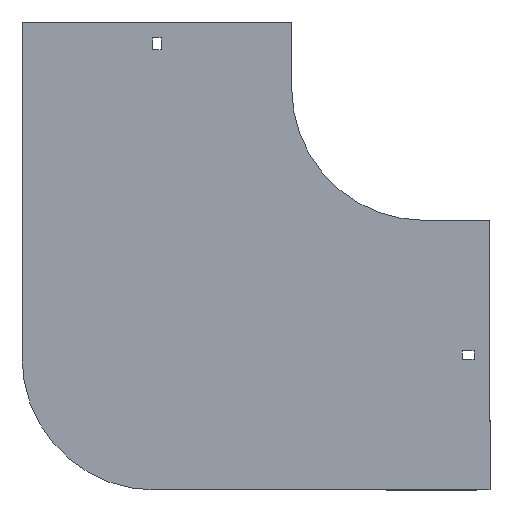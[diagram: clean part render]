
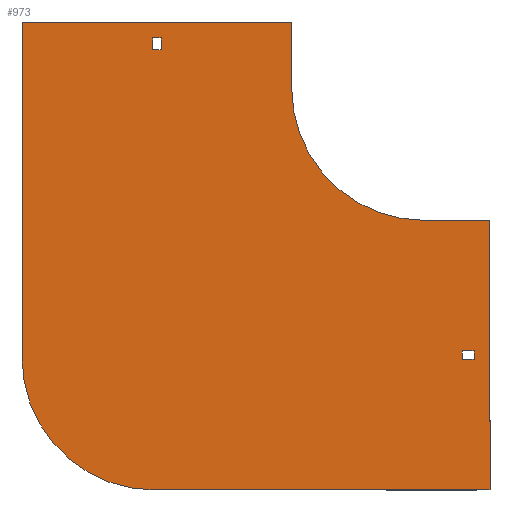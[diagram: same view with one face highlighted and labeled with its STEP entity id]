
A CAD part, front view. The second image highlights one B-rep face of the part: STEP entity #973.
In plain terms, the highlighted planar face has unit normal (0, -1, 0).
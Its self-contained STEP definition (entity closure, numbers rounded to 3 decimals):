
#22 = VERTEX_POINT ( 'NONE', #513 ) ;
#24 = DIRECTION ( 'NONE',  ( 0., -1., 0. ) ) ;
#25 = VECTOR ( 'NONE', #322, 1000. ) ;
#29 = LINE ( 'NONE', #884, #195 ) ;
#37 = CARTESIAN_POINT ( 'NONE',  ( 50., 0., -304. ) ) ;
#47 = VERTEX_POINT ( 'NONE', #390 ) ;
#48 = LINE ( 'NONE', #1025, #484 ) ;
#80 = CARTESIAN_POINT ( 'NONE',  ( 29., 0., -205.25 ) ) ;
#81 = VECTOR ( 'NONE', #434, 1000. ) ;
#96 = VERTEX_POINT ( 'NONE', #872 ) ;
#101 = DIRECTION ( 'NONE',  ( 0., 0., 1. ) ) ;
#123 = EDGE_CURVE ( 'NONE', #149, #950, #1026, .T. ) ;
#134 = DIRECTION ( 'NONE',  ( 0., 0., 1. ) ) ;
#139 = ORIENTED_EDGE ( 'NONE', *, *, #739, .T. ) ;
#144 = LINE ( 'NONE', #1106, #406 ) ;
#149 = VERTEX_POINT ( 'NONE', #1118 ) ;
#152 = ORIENTED_EDGE ( 'NONE', *, *, #1065, .F. ) ;
#165 = VECTOR ( 'NONE', #402, 1000. ) ;
#184 = VERTEX_POINT ( 'NONE', #271 ) ;
#189 = DIRECTION ( 'NONE',  ( 0., 1., 0. ) ) ;
#195 = VECTOR ( 'NONE', #890, 1000. ) ;
#196 = CARTESIAN_POINT ( 'NONE',  ( 0., 0., 0. ) ) ;
#202 = FACE_BOUND ( 'NONE', #1365, .T. ) ;
#205 = ORIENTED_EDGE ( 'NONE', *, *, #320, .F. ) ;
#213 = CARTESIAN_POINT ( 'NONE',  ( 29., 0., -205.25 ) ) ;
#232 = DIRECTION ( 'NONE',  ( 0., 0., 1. ) ) ;
#237 = EDGE_CURVE ( 'NONE', #950, #661, #1053, .T. ) ;
#263 = DIRECTION ( 'NONE',  ( 0., 0., -1. ) ) ;
#270 = CARTESIAN_POINT ( 'NONE',  ( -205.25, 0., 29. ) ) ;
#271 = CARTESIAN_POINT ( 'NONE',  ( -304., 0., 50. ) ) ;
#292 = CARTESIAN_POINT ( 'NONE',  ( 50., 0., -100. ) ) ;
#295 = LINE ( 'NONE', #544, #482 ) ;
#320 = EDGE_CURVE ( 'NONE', #1161, #1180, #984, .T. ) ;
#322 = DIRECTION ( 'NONE',  ( 1., 0., 0. ) ) ;
#328 = ORIENTED_EDGE ( 'NONE', *, *, #1020, .F. ) ;
#329 = CARTESIAN_POINT ( 'NONE',  ( -205.25, 0., 38. ) ) ;
#361 = CIRCLE ( 'NONE', #682, 100. ) ;
#387 = ORIENTED_EDGE ( 'NONE', *, *, #651, .F. ) ;
#390 = CARTESIAN_POINT ( 'NONE',  ( 38., 0., -198.75 ) ) ;
#397 = VERTEX_POINT ( 'NONE', #957 ) ;
#402 = DIRECTION ( 'NONE',  ( 1., 0., 0. ) ) ;
#406 = VECTOR ( 'NONE', #785, 1000. ) ;
#411 = VERTEX_POINT ( 'NONE', #554 ) ;
#418 = DIRECTION ( 'NONE',  ( 0., 0., -1. ) ) ;
#428 = VECTOR ( 'NONE', #1281, 1000. ) ;
#434 = DIRECTION ( 'NONE',  ( 0., 0., -1. ) ) ;
#436 = ORIENTED_EDGE ( 'NONE', *, *, #123, .T. ) ;
#482 = VECTOR ( 'NONE', #864, 1000. ) ;
#484 = VECTOR ( 'NONE', #605, 1000. ) ;
#495 = VERTEX_POINT ( 'NONE', #778 ) ;
#497 = EDGE_CURVE ( 'NONE', #411, #47, #1217, .T. ) ;
#499 = EDGE_CURVE ( 'NONE', #397, #184, #144, .T. ) ;
#513 = CARTESIAN_POINT ( 'NONE',  ( 50., 0., -100. ) ) ;
#539 = LINE ( 'NONE', #80, #25 ) ;
#544 = CARTESIAN_POINT ( 'NONE',  ( 29., 0., -198.75 ) ) ;
#554 = CARTESIAN_POINT ( 'NONE',  ( 38., 0., -205.25 ) ) ;
#592 = DIRECTION ( 'NONE',  ( -1., 0., 0. ) ) ;
#600 = CARTESIAN_POINT ( 'NONE',  ( -205.25, 0., 29. ) ) ;
#605 = DIRECTION ( 'NONE',  ( -1., 0., 0. ) ) ;
#613 = CARTESIAN_POINT ( 'NONE',  ( -205.25, 0., 38. ) ) ;
#623 = ORIENTED_EDGE ( 'NONE', *, *, #237, .T. ) ;
#637 = PLANE ( 'NONE',  #1227 ) ;
#646 = CARTESIAN_POINT ( 'NONE',  ( -204., 0., -204. ) ) ;
#651 = EDGE_CURVE ( 'NONE', #954, #397, #1069, .T. ) ;
#661 = VERTEX_POINT ( 'NONE', #1402 ) ;
#680 = CARTESIAN_POINT ( 'NONE',  ( -100., 0., 50. ) ) ;
#681 = CARTESIAN_POINT ( 'NONE',  ( 0., 0., 0. ) ) ;
#682 = AXIS2_PLACEMENT_3D ( 'NONE', #681, #24, #1102 ) ;
#688 = EDGE_CURVE ( 'NONE', #1007, #954, #48, .T. ) ;
#699 = ORIENTED_EDGE ( 'NONE', *, *, #688, .F. ) ;
#700 = EDGE_CURVE ( 'NONE', #841, #22, #797, .T. ) ;
#718 = ORIENTED_EDGE ( 'NONE', *, *, #767, .T. ) ;
#739 = EDGE_CURVE ( 'NONE', #661, #96, #1353, .T. ) ;
#752 = ORIENTED_EDGE ( 'NONE', *, *, #934, .F. ) ;
#765 = EDGE_LOOP ( 'NONE', ( #1315, #752, #205, #1300 ) ) ;
#767 = EDGE_CURVE ( 'NONE', #96, #149, #1252, .T. ) ;
#778 = CARTESIAN_POINT ( 'NONE',  ( -100., 0., 0. ) ) ;
#785 = DIRECTION ( 'NONE',  ( 0., 0., 1. ) ) ;
#787 = ORIENTED_EDGE ( 'NONE', *, *, #700, .F. ) ;
#796 = VECTOR ( 'NONE', #1245, 1000. ) ;
#797 = LINE ( 'NONE', #1040, #796 ) ;
#807 = EDGE_CURVE ( 'NONE', #1196, #495, #910, .T. ) ;
#841 = VERTEX_POINT ( 'NONE', #1272 ) ;
#847 = CARTESIAN_POINT ( 'NONE',  ( -204., 0., -304. ) ) ;
#864 = DIRECTION ( 'NONE',  ( -1., 0., 0. ) ) ;
#872 = CARTESIAN_POINT ( 'NONE',  ( -198.75, 0., 29. ) ) ;
#884 = CARTESIAN_POINT ( 'NONE',  ( -304., 0., 50. ) ) ;
#886 = AXIS2_PLACEMENT_3D ( 'NONE', #646, #189, #101 ) ;
#890 = DIRECTION ( 'NONE',  ( 1., 0., 0. ) ) ;
#909 = VECTOR ( 'NONE', #1362, 1000. ) ;
#910 = LINE ( 'NONE', #927, #909 ) ;
#927 = CARTESIAN_POINT ( 'NONE',  ( -100., 0., 50. ) ) ;
#934 = EDGE_CURVE ( 'NONE', #1180, #411, #539, .T. ) ;
#950 = VERTEX_POINT ( 'NONE', #329 ) ;
#954 = VERTEX_POINT ( 'NONE', #847 ) ;
#957 = CARTESIAN_POINT ( 'NONE',  ( -304., 0., -204. ) ) ;
#968 = EDGE_LOOP ( 'NONE', ( #152, #1302, #387, #699, #1142, #787, #328, #1123 ) ) ;
#973 = ADVANCED_FACE ( 'NONE', ( #202, #1277, #1381 ), #637, .T. ) ;
#984 = LINE ( 'NONE', #1092, #81 ) ;
#986 = EDGE_CURVE ( 'NONE', #47, #1161, #295, .T. ) ;
#1007 = VERTEX_POINT ( 'NONE', #37 ) ;
#1020 = EDGE_CURVE ( 'NONE', #495, #841, #361, .T. ) ;
#1025 = CARTESIAN_POINT ( 'NONE',  ( 50., 0., -304. ) ) ;
#1026 = LINE ( 'NONE', #600, #1337 ) ;
#1040 = CARTESIAN_POINT ( 'NONE',  ( 0., 0., -100. ) ) ;
#1053 = LINE ( 'NONE', #613, #165 ) ;
#1065 = EDGE_CURVE ( 'NONE', #184, #1196, #29, .T. ) ;
#1069 = CIRCLE ( 'NONE', #886, 100. ) ;
#1092 = CARTESIAN_POINT ( 'NONE',  ( 29., 0., -205.25 ) ) ;
#1102 = DIRECTION ( 'NONE',  ( 0., 0., -1. ) ) ;
#1106 = CARTESIAN_POINT ( 'NONE',  ( -304., 0., -204. ) ) ;
#1118 = CARTESIAN_POINT ( 'NONE',  ( -205.25, 0., 29. ) ) ;
#1121 = CARTESIAN_POINT ( 'NONE',  ( 29., 0., -198.75 ) ) ;
#1123 = ORIENTED_EDGE ( 'NONE', *, *, #807, .F. ) ;
#1142 = ORIENTED_EDGE ( 'NONE', *, *, #1327, .F. ) ;
#1159 = VECTOR ( 'NONE', #592, 1000. ) ;
#1161 = VERTEX_POINT ( 'NONE', #1121 ) ;
#1180 = VERTEX_POINT ( 'NONE', #213 ) ;
#1182 = DIRECTION ( 'NONE',  ( 0., -1., 0. ) ) ;
#1196 = VERTEX_POINT ( 'NONE', #680 ) ;
#1217 = LINE ( 'NONE', #1221, #1356 ) ;
#1221 = CARTESIAN_POINT ( 'NONE',  ( 38., 0., -205.25 ) ) ;
#1227 = AXIS2_PLACEMENT_3D ( 'NONE', #196, #1182, #418 ) ;
#1231 = CARTESIAN_POINT ( 'NONE',  ( -198.75, 0., 29. ) ) ;
#1245 = DIRECTION ( 'NONE',  ( 1., 0., 0. ) ) ;
#1252 = LINE ( 'NONE', #270, #1159 ) ;
#1272 = CARTESIAN_POINT ( 'NONE',  ( 0., 0., -100. ) ) ;
#1273 = LINE ( 'NONE', #292, #428 ) ;
#1277 = FACE_OUTER_BOUND ( 'NONE', #968, .T. ) ;
#1281 = DIRECTION ( 'NONE',  ( 0., 0., -1. ) ) ;
#1300 = ORIENTED_EDGE ( 'NONE', *, *, #986, .F. ) ;
#1302 = ORIENTED_EDGE ( 'NONE', *, *, #499, .F. ) ;
#1315 = ORIENTED_EDGE ( 'NONE', *, *, #497, .F. ) ;
#1327 = EDGE_CURVE ( 'NONE', #22, #1007, #1273, .T. ) ;
#1337 = VECTOR ( 'NONE', #134, 1000. ) ;
#1347 = VECTOR ( 'NONE', #263, 1000. ) ;
#1353 = LINE ( 'NONE', #1231, #1347 ) ;
#1356 = VECTOR ( 'NONE', #232, 1000. ) ;
#1362 = DIRECTION ( 'NONE',  ( 0., 0., -1. ) ) ;
#1365 = EDGE_LOOP ( 'NONE', ( #436, #623, #139, #718 ) ) ;
#1381 = FACE_BOUND ( 'NONE', #765, .T. ) ;
#1402 = CARTESIAN_POINT ( 'NONE',  ( -198.75, 0., 38. ) ) ;
